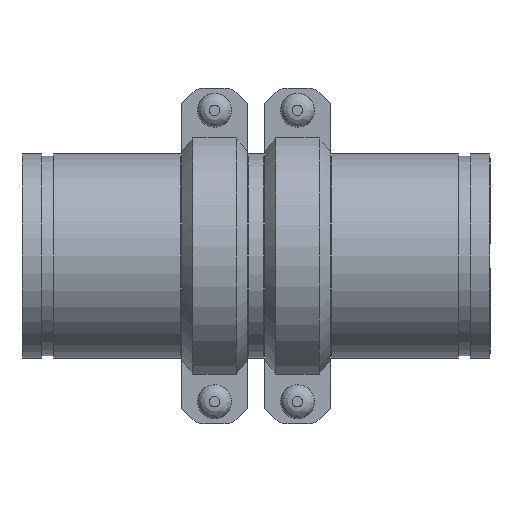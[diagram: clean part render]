
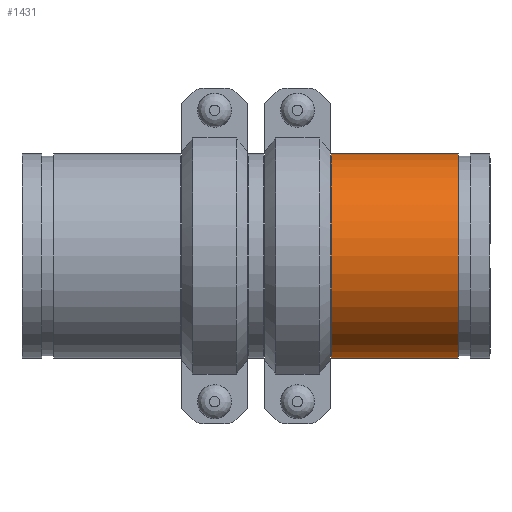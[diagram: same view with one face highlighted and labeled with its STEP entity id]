
A CAD part, front view. The second image highlights one B-rep face of the part: STEP entity #1431.
In plain terms, the highlighted cylindrical face has radius 82.55 mm (diameter 165.1 mm), a full revolution.
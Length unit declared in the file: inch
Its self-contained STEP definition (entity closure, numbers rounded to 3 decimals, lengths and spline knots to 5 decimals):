
#59=LINE('',#2295,#152);
#152=VECTOR('',#1852,3.25);
#245=CYLINDRICAL_SURFACE('',#1638,3.25);
#302=FACE_OUTER_BOUND('',#387,.T.);
#387=EDGE_LOOP('',(#940,#941,#942,#943,#944,#945));
#497=CIRCLE('',#1636,3.25);
#498=CIRCLE('',#1637,3.25);
#499=CIRCLE('',#1639,3.25);
#500=CIRCLE('',#1640,3.25);
#589=VERTEX_POINT('',#2286);
#590=VERTEX_POINT('',#2287);
#591=VERTEX_POINT('',#2291);
#592=VERTEX_POINT('',#2292);
#730=EDGE_CURVE('',#589,#590,#497,.T.);
#731=EDGE_CURVE('',#590,#589,#498,.T.);
#732=EDGE_CURVE('',#591,#592,#499,.T.);
#733=EDGE_CURVE('',#592,#591,#500,.T.);
#734=EDGE_CURVE('',#592,#590,#59,.T.);
#940=ORIENTED_EDGE('',*,*,#732,.F.);
#941=ORIENTED_EDGE('',*,*,#733,.F.);
#942=ORIENTED_EDGE('',*,*,#734,.T.);
#943=ORIENTED_EDGE('',*,*,#731,.T.);
#944=ORIENTED_EDGE('',*,*,#730,.T.);
#945=ORIENTED_EDGE('',*,*,#734,.F.);
#1431=ADVANCED_FACE('',(#302),#245,.T.);
#1636=AXIS2_PLACEMENT_3D('',#2288,#1842,#1843);
#1637=AXIS2_PLACEMENT_3D('',#2289,#1844,#1845);
#1638=AXIS2_PLACEMENT_3D('',#2290,#1846,#1847);
#1639=AXIS2_PLACEMENT_3D('',#2293,#1848,#1849);
#1640=AXIS2_PLACEMENT_3D('',#2294,#1850,#1851);
#1842=DIRECTION('center_axis',(-1.,0.,0.));
#1843=DIRECTION('ref_axis',(0.,0.,1.));
#1844=DIRECTION('center_axis',(-1.,0.,0.));
#1845=DIRECTION('ref_axis',(0.,0.,1.));
#1846=DIRECTION('center_axis',(-1.,0.,0.));
#1847=DIRECTION('ref_axis',(0.,1.,0.));
#1848=DIRECTION('center_axis',(-1.,0.,0.));
#1849=DIRECTION('ref_axis',(0.,0.,1.));
#1850=DIRECTION('center_axis',(-1.,0.,0.));
#1851=DIRECTION('ref_axis',(0.,0.,1.));
#1852=DIRECTION('',(1.,0.,0.));
#2286=CARTESIAN_POINT('',(2.0225,3.25,0.));
#2287=CARTESIAN_POINT('',(2.0225,-3.25,0.));
#2288=CARTESIAN_POINT('Origin',(2.0225,0.,0.));
#2289=CARTESIAN_POINT('Origin',(2.0225,0.,0.));
#2290=CARTESIAN_POINT('Origin',(0.,0.,
0.));
#2291=CARTESIAN_POINT('',(-2.0225,3.25,0.));
#2292=CARTESIAN_POINT('',(-2.0225,-3.25,0.));
#2293=CARTESIAN_POINT('Origin',(-2.0225,0.,0.));
#2294=CARTESIAN_POINT('Origin',(-2.0225,0.,0.));
#2295=CARTESIAN_POINT('',(0.,-3.25,0.));
